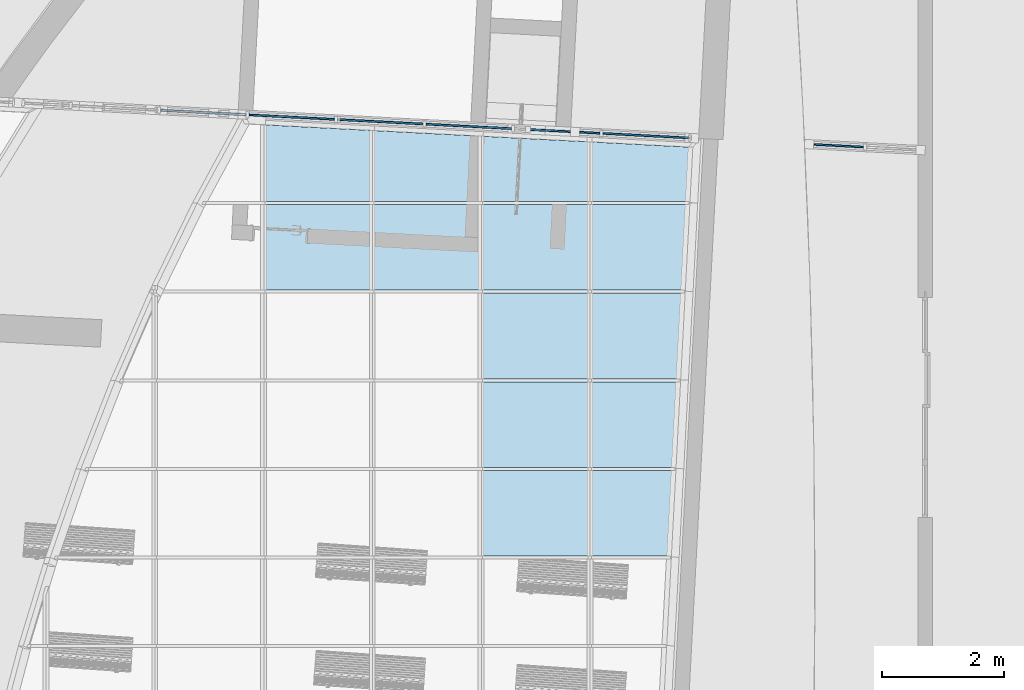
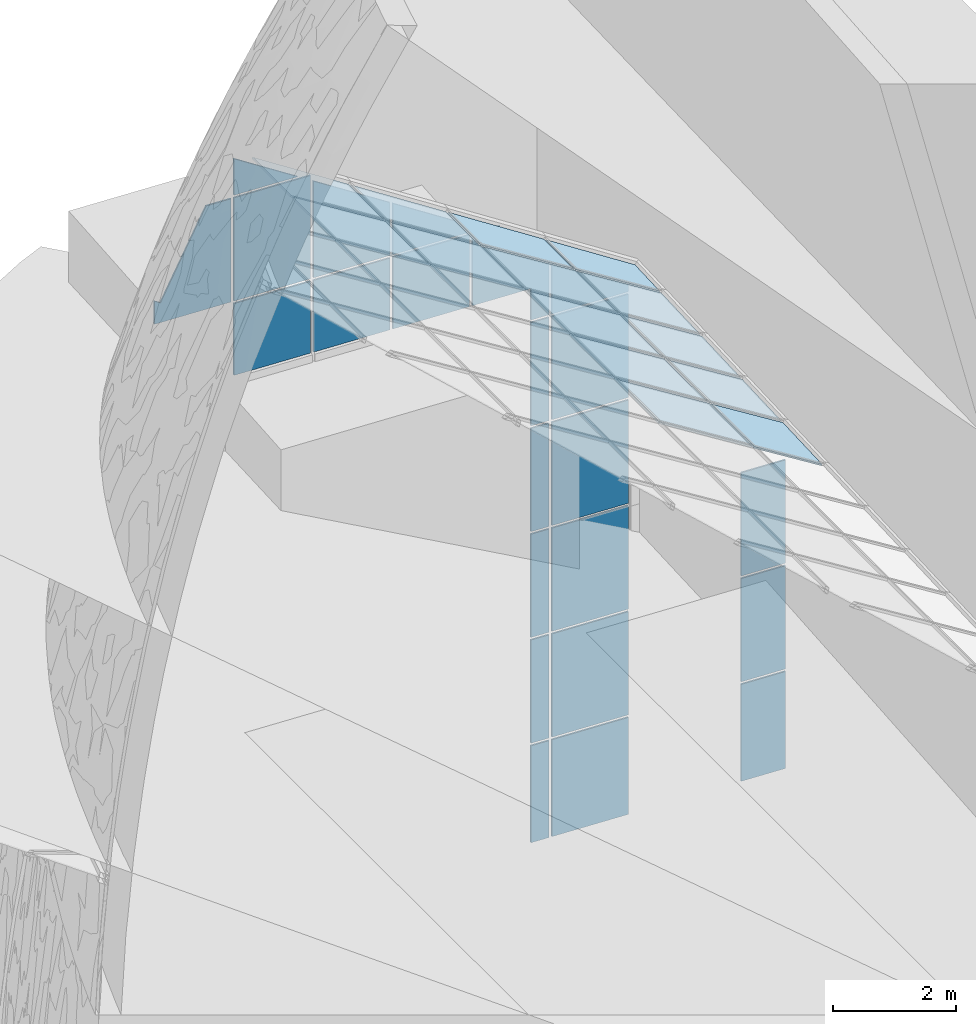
# One storey, part 44 of 82: 37 plates, 2 elements without a shape of their own.
"""IFC2X3 building model written with IfcOpenShell, lengths in millimetres."""

from ifc_helpers import new_model, entity, si_unit, converted_unit, derived_unit, direction, frame, frame_2d, origin, origin_2d_with_axis, place, context, subcontext, project, spatial, polyline, rectangle, outline, extrude, source, transform, mapped, material, layer, layer_set, layer_usage, type_object, type_shapes, element, aggregate, save


model = new_model("IFC2X3")

# Units and contexts
model_context = context("Model", 3, precision=0.01, world=origin(), true_north=direction((6.12303176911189e-17, 1.0)))
body_context = subcontext(model_context, "Body", "Model", "MODEL_VIEW")
ifc_project = project(units=[si_unit("LENGTHUNIT", "METRE", prefix="MILLI"), si_unit("AREAUNIT", "SQUARE_METRE"), si_unit("VOLUMEUNIT", "CUBIC_METRE"), converted_unit("PLANEANGLEUNIT", "DEGREE", entity("IfcRatioMeasure", 0.0174532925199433), si_unit("PLANEANGLEUNIT", "RADIAN"), dimensions=[0, 0, 0, 0, 0, 0, 0]), si_unit("MASSUNIT", "GRAM", prefix="KILO"), derived_unit("MASSDENSITYUNIT", [(si_unit("MASSUNIT", "GRAM", prefix="KILO"), 1), (si_unit("LENGTHUNIT", "METRE"), -3)]), si_unit("TIMEUNIT", "SECOND"), si_unit("FREQUENCYUNIT", "HERTZ"), si_unit("THERMODYNAMICTEMPERATUREUNIT", "DEGREE_CELSIUS"), derived_unit("THERMALTRANSMITTANCEUNIT", [(si_unit("MASSUNIT", "GRAM", prefix="KILO"), 1), (si_unit("THERMODYNAMICTEMPERATUREUNIT", "KELVIN"), -1), (si_unit("TIMEUNIT", "SECOND"), -3)]), derived_unit("VOLUMETRICFLOWRATEUNIT", [(si_unit("LENGTHUNIT", "METRE"), 3), (si_unit("TIMEUNIT", "SECOND"), -1)]), si_unit("ELECTRICCURRENTUNIT", "AMPERE"), si_unit("ELECTRICVOLTAGEUNIT", "VOLT"), si_unit("POWERUNIT", "WATT"), si_unit("FORCEUNIT", "NEWTON", prefix="KILO"), si_unit("ILLUMINANCEUNIT", "LUX"), si_unit("LUMINOUSFLUXUNIT", "LUMEN"), si_unit("LUMINOUSINTENSITYUNIT", "CANDELA"), derived_unit("USERDEFINED", [(si_unit("MASSUNIT", "GRAM", prefix="KILO"), -1), (si_unit("LENGTHUNIT", "METRE"), -2), (si_unit("TIMEUNIT", "SECOND"), 3), (si_unit("LUMINOUSFLUXUNIT", "LUMEN"), 1)]), derived_unit("LINEARVELOCITYUNIT", [(si_unit("LENGTHUNIT", "METRE"), 1), (si_unit("TIMEUNIT", "SECOND"), -1)]), si_unit("PRESSUREUNIT", "PASCAL"), derived_unit("USERDEFINED", [(si_unit("LENGTHUNIT", "METRE"), -2), (si_unit("MASSUNIT", "GRAM", prefix="KILO"), 1), (si_unit("TIMEUNIT", "SECOND"), -2)])], contexts=[model_context])

# Site, building, storey
site_placement = place(None, origin())
site = spatial("IfcSite", under=ifc_project, at=site_placement, Name="表面", CompositionType="ELEMENT")
building_placement = place(site_placement, origin())
building = spatial("IfcBuilding", under=site, at=building_placement, CompositionType="ELEMENT")
storey_placement = place(building_placement, origin())
storey = spatial("IfcBuildingStorey", under=building, at=storey_placement, Name="1F", CompositionType="ELEMENT", Elevation=0.0)

# Curtain wall, plates
curtain_wall_type = type_object("IfcCurtainWallType", Name="幕墙系统:1450 x 2100mm", PredefinedType="NOTDEFINED")
curtain_wall_1_placement = place(storey_placement, origin())
curtain_wall_1 = element("IfcCurtainWall", 1, at=curtain_wall_1_placement, inside=storey, type_object=curtain_wall_type, Name="幕墙系统:1450 x 2100mm", ObjectType="幕墙系统:1450 x 2100mm")
ifc_material = material(Name="<Unnamed>")
ifc_layer = layer(ifc_material, 30.0)
ifc_layer_set = layer_set([ifc_layer], Name="幕墙系统:1450 x 2100mm")
ifc_layer_usage_1 = layer_usage(ifc_layer_set, "AXIS3", "POSITIVE", 0.0)
plate_type_1 = type_object("IfcPlateType", Name="玻璃", PredefinedType="CURTAIN_PANEL", material=ifc_layer_set)
shared_shape_1 = source(origin(), body_context, "Body", "SweptSolid", [
    extrude(rectangle(XDim=30.0, YDim=1400.0, at=frame_2d((0.0, 3.97903932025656e-13), x_axis=(1.0, 0.0))), frame((0.0, 0.0, 0.0), z_axis=(0.0, 0.0, 1.0), x_axis=(0.0, 1.0, 0.0)), (0.0, 0.0, 1.0), 2050.0),
])
type_shapes(plate_type_1, [shared_shape_1])
plate_1_placement = place(curtain_wall_1_placement, frame((-19940.3008154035, 386.096846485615, 12156.2797786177), z_axis=(-0.848048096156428, 0.0, 0.529919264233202), x_axis=(0.0, -1.0, 0.0)))
plate_1 = element("IfcPlate", 2, at=plate_1_placement, type_object=plate_type_1, material=ifc_layer_usage_1, Name="系统嵌板:玻璃", ObjectType="玻璃", context=body_context, shape_type="MappedRepresentation", body=[
    mapped(shared_shape_1, transform((0.0, 0.0, 0.0), scale=1.0)),
])
ifc_layer_usage_2 = layer_usage(ifc_layer_set, "AXIS3", "POSITIVE", 0.0)
plate_2_placement = place(curtain_wall_1_placement, frame((-19940.3008154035, -1063.90315351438, 12156.2797786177), z_axis=(-0.848048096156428, 0.0, 0.529919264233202), x_axis=(0.0, -1.0, 0.0)))
plate_2 = element("IfcPlate", 3, at=plate_2_placement, type_object=plate_type_1, material=ifc_layer_usage_2, Name="系统嵌板:玻璃", ObjectType="玻璃", context=body_context, shape_type="MappedRepresentation", body=[
    mapped(shared_shape_1, transform((0.0, 0.0, 0.0), scale=1.0)),
])
ifc_layer_usage_3 = layer_usage(ifc_layer_set, "AXIS3", "POSITIVE", 0.0)
plate_3_placement = place(curtain_wall_1_placement, frame((-19940.3008154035, -2513.90315351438, 12156.2797786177), z_axis=(-0.848048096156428, 0.0, 0.529919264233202), x_axis=(0.0, -1.0, 0.0)))
plate_3 = element("IfcPlate", 4, at=plate_3_placement, type_object=plate_type_1, material=ifc_layer_usage_3, Name="系统嵌板:玻璃", ObjectType="玻璃", context=body_context, shape_type="MappedRepresentation", body=[
    mapped(shared_shape_1, transform((0.0, 0.0, 0.0), scale=1.0)),
])
ifc_layer_usage_4 = layer_usage(ifc_layer_set, "AXIS3", "POSITIVE", 0.0)
plate_4_placement = place(curtain_wall_1_placement, frame((-19940.3008154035, -3963.90315351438, 12156.2797786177), z_axis=(-0.848048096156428, 0.0, 0.529919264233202), x_axis=(0.0, -1.0, 0.0)))
plate_4 = element("IfcPlate", 5, at=plate_4_placement, type_object=plate_type_1, material=ifc_layer_usage_4, Name="系统嵌板:玻璃", ObjectType="玻璃", context=body_context, shape_type="MappedRepresentation", body=[
    mapped(shared_shape_1, transform((0.0, 0.0, 0.0), scale=1.0)),
])
ifc_layer_usage_5 = layer_usage(ifc_layer_set, "AXIS3", "POSITIVE", 0.0)
plate_5_placement = place(curtain_wall_1_placement, frame((-21721.201817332, 386.096846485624, 13269.1102335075), z_axis=(-0.848048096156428, 0.0, 0.529919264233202), x_axis=(0.0, -1.0, 0.0)))
plate_5 = element("IfcPlate", 6, at=plate_5_placement, type_object=plate_type_1, material=ifc_layer_usage_5, Name="系统嵌板:玻璃", ObjectType="玻璃", context=body_context, shape_type="MappedRepresentation", body=[
    mapped(shared_shape_1, transform((0.0, 0.0, 0.0), scale=1.0)),
])
ifc_layer_usage_6 = layer_usage(ifc_layer_set, "AXIS3", "POSITIVE", 0.0)
plate_6_placement = place(curtain_wall_1_placement, frame((-23502.1028192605, 386.096846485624, 14381.9406883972), z_axis=(-0.848048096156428, 0.0, 0.529919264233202), x_axis=(0.0, -1.0, 0.0)))
plate_6 = element("IfcPlate", 7, at=plate_6_placement, type_object=plate_type_1, material=ifc_layer_usage_6, Name="系统嵌板:玻璃", ObjectType="玻璃", context=body_context, shape_type="MappedRepresentation", body=[
    mapped(shared_shape_1, transform((0.0, 0.0, 0.0), scale=1.0)),
])
ifc_layer_usage_7 = layer_usage(ifc_layer_set, "AXIS3", "POSITIVE", 0.0)
plate_7_placement = place(curtain_wall_1_placement, frame((-19006.204384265, 2215.48991123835, 2125.0), z_axis=(0.0, 0.0, 1.0), x_axis=(0.998629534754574, -0.0523359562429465, 0.0)))
plate_7 = element("IfcPlate", 8, at=plate_7_placement, type_object=plate_type_1, material=ifc_layer_usage_7, Name="系统嵌板:玻璃", ObjectType="玻璃", context=body_context, shape_type="MappedRepresentation", body=[
    mapped(shared_shape_1, transform((0.0, 0.0, 0.0), scale=1.0)),
])
ifc_layer_usage_8 = layer_usage(ifc_layer_set, "AXIS3", "POSITIVE", 0.0)
plate_8_placement = place(curtain_wall_1_placement, frame((-19006.204384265, 2215.48991123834, 4225.0), z_axis=(0.0, 0.0, 1.0), x_axis=(0.998629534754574, -0.0523359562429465, 0.0)))
plate_8 = element("IfcPlate", 9, at=plate_8_placement, type_object=plate_type_1, material=ifc_layer_usage_8, Name="系统嵌板:玻璃", ObjectType="玻璃", context=body_context, shape_type="MappedRepresentation", body=[
    mapped(shared_shape_1, transform((0.0, 0.0, 0.0), scale=1.0)),
])
ifc_layer_usage_9 = layer_usage(ifc_layer_set, "AXIS3", "POSITIVE", 0.0)
plate_9_placement = place(curtain_wall_1_placement, frame((-19006.204384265, 2215.48991123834, 6325.0), z_axis=(0.0, 0.0, 1.0), x_axis=(0.998629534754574, -0.0523359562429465, 0.0)))
plate_9 = element("IfcPlate", 10, at=plate_9_placement, type_object=plate_type_1, material=ifc_layer_usage_9, Name="系统嵌板:玻璃", ObjectType="玻璃", context=body_context, shape_type="MappedRepresentation", body=[
    mapped(shared_shape_1, transform((0.0, 0.0, 0.0), scale=1.0)),
])
ifc_layer_usage_10 = layer_usage(ifc_layer_set, "AXIS3", "POSITIVE", 0.0)
plate_10_placement = place(curtain_wall_1_placement, frame((-19006.204384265, 2215.48991123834, 8425.0), z_axis=(0.0, 0.0, 1.0), x_axis=(0.998629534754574, -0.0523359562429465, 0.0)))
plate_10 = element("IfcPlate", 11, at=plate_10_placement, type_object=plate_type_1, material=ifc_layer_usage_10, Name="系统嵌板:玻璃", ObjectType="玻璃", context=body_context, shape_type="MappedRepresentation", body=[
    mapped(shared_shape_1, transform((0.0, 0.0, 0.0), scale=1.0)),
])
ifc_layer_usage_11 = layer_usage(ifc_layer_set, "AXIS3", "POSITIVE", 0.0)
plate_11_placement = place(curtain_wall_1_placement, frame((-24798.2556858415, 2519.03845744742, 12625.0), z_axis=(0.0, 0.0, 1.0), x_axis=(0.998629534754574, -0.0523359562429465, 0.0)))
plate_11 = element("IfcPlate", 12, at=plate_11_placement, type_object=plate_type_1, material=ifc_layer_usage_11, Name="系统嵌板:玻璃", ObjectType="玻璃", context=body_context, shape_type="MappedRepresentation", body=[
    mapped(shared_shape_1, transform((0.0, 0.0, 0.0), scale=1.0)),
])
ifc_layer_usage_12 = layer_usage(ifc_layer_set, "AXIS3", "POSITIVE", 0.0)
plate_type_2 = type_object("IfcPlateType", Name="玻璃", PredefinedType="CURTAIN_PANEL", material=ifc_layer_set)
shared_shape_2 = source(origin(), body_context, "Body", "SweptSolid", [
    extrude(rectangle(XDim=30.0, YDim=1400.0, at=frame_2d((0.0, 3.97903932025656e-13), x_axis=(1.0, 0.0))), frame((0.0, 0.0, 0.0), z_axis=(0.0, 0.0, 1.0), x_axis=(0.0, 1.0, 0.0)), (0.0, 0.0, 1.0), 1925.0),
])
type_shapes(plate_type_2, [shared_shape_2])
plate_12_placement = place(curtain_wall_1_placement, frame((-19006.204384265, 2215.48991123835, 150.0), z_axis=(0.0, 0.0, 1.0), x_axis=(0.998629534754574, -0.0523359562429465, 0.0)))
plate_12 = element("IfcPlate", 13, at=plate_12_placement, type_object=plate_type_2, material=ifc_layer_usage_12, Name="系统嵌板:玻璃", ObjectType="玻璃", context=body_context, shape_type="MappedRepresentation", body=[
    mapped(shared_shape_2, transform((0.0, 0.0, 0.0), scale=1.0)),
])

curtain_wall_2_placement = place(storey_placement, origin())
curtain_wall_2 = element("IfcCurtainWall", 14, at=curtain_wall_2_placement, inside=storey, type_object=curtain_wall_type, Name="幕墙系统:1450 x 2100mm", ObjectType="幕墙系统:1450 x 2100mm")
ifc_layer_usage_13 = layer_usage(ifc_layer_set, "AXIS3", "POSITIVE", 0.0)
plate_type_3 = type_object("IfcPlateType", Name="玻璃", PredefinedType="CURTAIN_PANEL", material=ifc_layer_set)
shared_shape_3 = source(origin(), body_context, "Body", "SweptSolid", [
    extrude(rectangle(XDim=30.0, YDim=813.114110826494, at=frame_2d((0.0, -2.8421709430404e-13), x_axis=(1.0, 0.0))), frame((0.0, 0.0, 0.0), z_axis=(0.0, 0.0, 1.0), x_axis=(0.0, 1.0, 0.0)), (0.0, 0.0, 1.0), 1925.0),
])
type_shapes(plate_type_3, [shared_shape_3])
plate_13_placement = place(curtain_wall_2_placement, frame((-15847.9754688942, 2049.97414731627, 150.0), z_axis=(0.0, 0.0, 1.0), x_axis=(0.998629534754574, -0.0523359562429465, 0.0)))
plate_13 = element("IfcPlate", 15, at=plate_13_placement, type_object=plate_type_3, material=ifc_layer_usage_13, Name="系统嵌板:玻璃", ObjectType="玻璃", context=body_context, shape_type="MappedRepresentation", body=[
    mapped(shared_shape_3, transform((0.0, 0.0, 0.0), scale=1.0)),
])
ifc_layer_usage_14 = layer_usage(ifc_layer_set, "AXIS3", "POSITIVE", 0.0)
plate_type_4 = type_object("IfcPlateType", Name="玻璃", PredefinedType="CURTAIN_PANEL", material=ifc_layer_set)
shared_shape_4 = source(origin(), body_context, "Body", "SweptSolid", [
    extrude(rectangle(XDim=30.0, YDim=813.114110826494, at=frame_2d((0.0, -2.8421709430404e-13), x_axis=(1.0, 0.0))), frame((0.0, 0.0, 0.0), z_axis=(0.0, 0.0, 1.0), x_axis=(0.0, 1.0, 0.0)), (0.0, 0.0, 1.0), 2050.0),
])
type_shapes(plate_type_4, [shared_shape_4])
plate_14_placement = place(curtain_wall_2_placement, frame((-15847.9754688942, 2049.97414731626, 2125.0), z_axis=(0.0, 0.0, 1.0), x_axis=(0.998629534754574, -0.0523359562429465, 0.0)))
plate_14 = element("IfcPlate", 16, at=plate_14_placement, type_object=plate_type_4, material=ifc_layer_usage_14, Name="系统嵌板:玻璃", ObjectType="玻璃", context=body_context, shape_type="MappedRepresentation", body=[
    mapped(shared_shape_4, transform((0.0, 0.0, 0.0), scale=1.0)),
])
ifc_layer_usage_15 = layer_usage(ifc_layer_set, "AXIS3", "POSITIVE", 0.0)
plate_15_placement = place(curtain_wall_2_placement, frame((-15847.9754688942, 2049.97414731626, 4225.0), z_axis=(0.0, 0.0, 1.0), x_axis=(0.998629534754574, -0.0523359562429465, 0.0)))
plate_15 = element("IfcPlate", 17, at=plate_15_placement, type_object=plate_type_4, material=ifc_layer_usage_15, Name="系统嵌板:玻璃", ObjectType="玻璃", context=body_context, shape_type="MappedRepresentation", body=[
    mapped(shared_shape_4, transform((0.0, 0.0, 0.0), scale=1.0)),
])
aggregate(curtain_wall_2, [plate_13, plate_14, plate_15])

# Plate
ifc_layer_usage_16 = layer_usage(ifc_layer_set, "AXIS3", "POSITIVE", 0.0)
plate_type_5 = type_object("IfcPlateType", Name="玻璃", PredefinedType="CURTAIN_PANEL", material=ifc_layer_set)
shared_shape_5 = source(origin(), body_context, "Body", "SweptSolid", [
    extrude(outline(polyline([(-951.909193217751, -466.85176375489), (965.854117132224, -466.85176375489), (922.520276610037, 508.16243409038), (-936.46520052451, 425.541093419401), (-951.909193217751, -466.85176375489)])), frame((21.2874062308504, -15.0, 971.698877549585), z_axis=(0.0, 1.0, 0.0), x_axis=(-0.0444004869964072, 0.0, 0.999013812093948)), (0.0, 0.0, 1.0), 30.0),
])
type_shapes(plate_type_5, [shared_shape_5])
plate_16_placement = place(curtain_wall_1_placement, frame((-18273.1467785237, 1624.08519361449, 11114.5263160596), z_axis=(-0.848048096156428, 0.0, 0.529919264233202), x_axis=(0.0, -1.0, 0.0)))
plate_16 = element("IfcPlate", 18, at=plate_16_placement, type_object=plate_type_5, material=ifc_layer_usage_16, Name="系统嵌板:玻璃", ObjectType="玻璃", context=body_context, shape_type="MappedRepresentation", body=[
    mapped(shared_shape_5, transform((0.0, 0.0, 0.0), scale=1.0)),
])

ifc_layer_usage_17 = layer_usage(ifc_layer_set, "AXIS3", "POSITIVE", 0.0)
plate_type_6 = type_object("IfcPlateType", Name="玻璃", PredefinedType="CURTAIN_PANEL", material=ifc_layer_set)
shared_shape_6 = source(origin(), body_context, "Body", "SweptSolid", [
    extrude(outline(polyline([(-950.494687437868, -700.0), (907.236002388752, -700.0), (907.236002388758, 700.0), (-863.977317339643, 700.0), (-950.494687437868, -700.0)])), frame((0.0, -15.0, 950.49468743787), z_axis=(0.0, 1.0, 0.0), x_axis=(0.0, 0.0, 1.0)), (0.0, 0.0, 1.0), 30.0),
])
type_shapes(plate_type_6, [shared_shape_6])
plate_17_placement = place(curtain_wall_1_placement, frame((-18322.4534359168, 386.096846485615, 11145.3365351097), z_axis=(-0.848048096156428, 0.0, 0.529919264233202), x_axis=(0.0, -1.0, 0.0)))
plate_17 = element("IfcPlate", 19, at=plate_17_placement, type_object=plate_type_6, material=ifc_layer_usage_17, Name="系统嵌板:玻璃", ObjectType="玻璃", context=body_context, shape_type="MappedRepresentation", body=[
    mapped(shared_shape_6, transform((0.0, 0.0, 0.0), scale=1.0)),
])

ifc_layer_usage_18 = layer_usage(ifc_layer_set, "AXIS3", "POSITIVE", 0.0)
plate_type_7 = type_object("IfcPlateType", Name="玻璃", PredefinedType="CURTAIN_PANEL", material=ifc_layer_set)
shared_shape_7 = source(origin(), body_context, "Body", "SweptSolid", [
    extrude(outline(polyline([(-905.69104935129, -700.0), (862.432364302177, -700.0), (862.432364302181, 700.0), (-819.173679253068, 700.0), (-905.69104935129, -700.0)])), frame((0.0, -15.0, 905.691049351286), z_axis=(0.0, 1.0, 0.0), x_axis=(0.0, 0.0, 1.0)), (0.0, 0.0, 1.0), 30.0),
])
type_shapes(plate_type_7, [shared_shape_7])
plate_18_placement = place(curtain_wall_1_placement, frame((-18398.4447158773, -1063.90315351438, 11192.8211569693), z_axis=(-0.848048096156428, 0.0, 0.529919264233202), x_axis=(0.0, -1.0, 0.0)))
plate_18 = element("IfcPlate", 20, at=plate_18_placement, type_object=plate_type_7, material=ifc_layer_usage_18, Name="系统嵌板:玻璃", ObjectType="玻璃", context=body_context, shape_type="MappedRepresentation", body=[
    mapped(shared_shape_7, transform((0.0, 0.0, 0.0), scale=1.0)),
])

ifc_layer_usage_19 = layer_usage(ifc_layer_set, "AXIS3", "POSITIVE", 0.0)
plate_type_8 = type_object("IfcPlateType", Name="玻璃", PredefinedType="CURTAIN_PANEL", material=ifc_layer_set)
shared_shape_8 = source(origin(), body_context, "Body", "SweptSolid", [
    extrude(outline(polyline([(-860.887411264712, -700.0), (817.628726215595, -700.0), (817.628726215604, 700.0), (-774.370041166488, 700.0), (-860.887411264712, -700.0)])), frame((0.0, -15.0, 860.887411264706), z_axis=(0.0, 1.0, 0.0), x_axis=(0.0, 0.0, 1.0)), (0.0, 0.0, 1.0), 30.0),
])
type_shapes(plate_type_8, [shared_shape_8])
plate_19_placement = place(curtain_wall_1_placement, frame((-18474.4359958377, -2513.90315351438, 11240.305778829), z_axis=(-0.848048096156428, 0.0, 0.529919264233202), x_axis=(0.0, -1.0, 0.0)))
plate_19 = element("IfcPlate", 21, at=plate_19_placement, type_object=plate_type_8, material=ifc_layer_usage_19, Name="系统嵌板:玻璃", ObjectType="玻璃", context=body_context, shape_type="MappedRepresentation", body=[
    mapped(shared_shape_8, transform((0.0, 0.0, 0.0), scale=1.0)),
])

ifc_layer_usage_20 = layer_usage(ifc_layer_set, "AXIS3", "POSITIVE", 0.0)
plate_type_9 = type_object("IfcPlateType", Name="玻璃", PredefinedType="CURTAIN_PANEL", material=ifc_layer_set)
shared_shape_9 = source(origin(), body_context, "Body", "SweptSolid", [
    extrude(outline(polyline([(-816.083773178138, -700.0), (772.825088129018, -700.0), (772.825088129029, 700.0), (-729.566403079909, 700.0), (-816.083773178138, -700.0)])), frame((0.0, -15.0, 816.083773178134), z_axis=(0.0, 1.0, 0.0), x_axis=(0.0, 0.0, 1.0)), (0.0, 0.0, 1.0), 30.0),
])
type_shapes(plate_type_9, [shared_shape_9])
plate_20_placement = place(curtain_wall_1_placement, frame((-18550.4272757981, -3963.90315351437, 11287.7904006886), z_axis=(-0.848048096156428, 0.0, 0.529919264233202), x_axis=(0.0, -1.0, 0.0)))
plate_20 = element("IfcPlate", 22, at=plate_20_placement, type_object=plate_type_9, material=ifc_layer_usage_20, Name="系统嵌板:玻璃", ObjectType="玻璃", context=body_context, shape_type="MappedRepresentation", body=[
    mapped(shared_shape_9, transform((0.0, 0.0, 0.0), scale=1.0)),
])

ifc_layer_usage_21 = layer_usage(ifc_layer_set, "AXIS3", "POSITIVE", 0.0)
plate_type_10 = type_object("IfcPlateType", Name="玻璃", PredefinedType="CURTAIN_PANEL", material=ifc_layer_set)
shared_shape_10 = source(origin(), body_context, "Body", "SweptSolid", [
    extrude(outline(polyline([(-1003.28424493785, -511.372360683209), (1048.73943599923, -511.372360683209), (1001.26156186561, 556.882859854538), (-1046.71675292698, 465.861861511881), (-1003.28424493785, -511.372360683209)])), frame((22.7777126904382, -15.0, 1025.0), z_axis=(0.0, 1.0, 0.0), x_axis=(-0.0444004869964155, 0.0, 0.999013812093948)), (0.0, 0.0, 1.0), 30.0),
])
type_shapes(plate_type_10, [shared_shape_10])
plate_21_placement = place(curtain_wall_1_placement, frame((-19940.3008154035, 1670.75172693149, 12156.2797786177), z_axis=(-0.848048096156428, 0.0, 0.529919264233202), x_axis=(0.0, -1.0, 0.0)))
plate_21 = element("IfcPlate", 23, at=plate_21_placement, type_object=plate_type_10, material=ifc_layer_usage_21, Name="系统嵌板:玻璃", ObjectType="玻璃", context=body_context, shape_type="MappedRepresentation", body=[
    mapped(shared_shape_10, transform((0.0, 0.0, 0.0), scale=1.0)),
])

ifc_layer_usage_22 = layer_usage(ifc_layer_set, "AXIS3", "POSITIVE", 0.0)
plate_type_11 = type_object("IfcPlateType", Name="玻璃", PredefinedType="CURTAIN_PANEL", material=ifc_layer_set)
shared_shape_11 = source(origin(), body_context, "Body", "SweptSolid", [
    extrude(outline(polyline([(-1001.21222813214, -557.992872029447), (1050.81145280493, -557.992872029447), (999.189545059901, 603.503371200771), (-1048.78876973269, 512.482372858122), (-1001.21222813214, -557.992872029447)])), frame((22.7777126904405, -15.0, 1025.0), z_axis=(0.0, 1.0, 0.0), x_axis=(-0.0444004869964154, 0.0, 0.999013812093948)), (0.0, 0.0, 1.0), 30.0),
])
type_shapes(plate_type_11, [shared_shape_11])
plate_22_placement = place(curtain_wall_1_placement, frame((-21721.201817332, 1717.41826024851, 13269.1102335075), z_axis=(-0.848048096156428, 0.0, 0.529919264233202), x_axis=(0.0, -1.0, 0.0)))
plate_22 = element("IfcPlate", 24, at=plate_22_placement, type_object=plate_type_11, material=ifc_layer_usage_22, Name="系统嵌板:玻璃", ObjectType="玻璃", context=body_context, shape_type="MappedRepresentation", body=[
    mapped(shared_shape_11, transform((0.0, 0.0, 0.0), scale=1.0)),
])

ifc_layer_usage_23 = layer_usage(ifc_layer_set, "AXIS3", "POSITIVE", 0.0)
plate_type_12 = type_object("IfcPlateType", Name="玻璃", PredefinedType="CURTAIN_PANEL", material=ifc_layer_set)
shared_shape_12 = source(origin(), body_context, "Body", "SweptSolid", [
    extrude(outline(polyline([(-999.140211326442, -604.61338337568), (1052.88346961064, -604.61338337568), (997.117528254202, 650.123882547), (-1050.8607865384, 559.102884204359), (-999.140211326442, -604.61338337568)])), frame((22.777712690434, -15.0, 1025.0), z_axis=(0.0, 1.0, 0.0), x_axis=(-0.0444004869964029, 0.0, 0.999013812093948)), (0.0, 0.0, 1.0), 30.0),
])
type_shapes(plate_type_12, [shared_shape_12])
plate_23_placement = place(curtain_wall_1_placement, frame((-23502.1028192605, 1764.08479356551, 14381.9406883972), z_axis=(-0.848048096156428, 0.0, 0.529919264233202), x_axis=(0.0, -1.0, 0.0)))
plate_23 = element("IfcPlate", 25, at=plate_23_placement, type_object=plate_type_12, material=ifc_layer_usage_23, Name="系统嵌板:玻璃", ObjectType="玻璃", context=body_context, shape_type="MappedRepresentation", body=[
    mapped(shared_shape_12, transform((0.0, 0.0, 0.0), scale=1.0)),
])

ifc_layer_usage_24 = layer_usage(ifc_layer_set, "AXIS3", "POSITIVE", 0.0)
plate_type_13 = type_object("IfcPlateType", Name="玻璃", PredefinedType="CURTAIN_PANEL", material=ifc_layer_set)
shared_shape_13 = source(origin(), body_context, "Body", "SweptSolid", [
    extrude(rectangle(XDim=30.0, YDim=330.803022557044, at=origin_2d_with_axis()), frame((0.0, 0.0, 0.0), z_axis=(0.0, 0.0, 1.0), x_axis=(0.0, 1.0, 0.0)), (0.0, 0.0, 1.0), 1925.0),
])
type_shapes(plate_type_13, [shared_shape_13])
plate_24_placement = place(curtain_wall_1_placement, frame((-19920.3513695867, 2263.39832467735, 150.0), z_axis=(0.0, 0.0, 1.0), x_axis=(0.998629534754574, -0.0523359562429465, 0.0)))
plate_24 = element("IfcPlate", 26, at=plate_24_placement, type_object=plate_type_13, material=ifc_layer_usage_24, Name="系统嵌板:玻璃", ObjectType="玻璃", context=body_context, shape_type="MappedRepresentation", body=[
    mapped(shared_shape_13, transform((0.0, 0.0, 0.0), scale=1.0)),
])

ifc_layer_usage_25 = layer_usage(ifc_layer_set, "AXIS3", "POSITIVE", 0.0)
plate_type_14 = type_object("IfcPlateType", Name="玻璃", PredefinedType="CURTAIN_PANEL", material=ifc_layer_set)
shared_shape_14 = source(origin(), body_context, "Body", "SweptSolid", [
    extrude(rectangle(XDim=30.0, YDim=330.803022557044, at=origin_2d_with_axis()), frame((0.0, 0.0, 0.0), z_axis=(0.0, 0.0, 1.0), x_axis=(0.0, 1.0, 0.0)), (0.0, 0.0, 1.0), 2050.0),
])
type_shapes(plate_type_14, [shared_shape_14])
plate_25_placement = place(curtain_wall_1_placement, frame((-19920.3513695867, 2263.39832467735, 2125.0), z_axis=(0.0, 0.0, 1.0), x_axis=(0.998629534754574, -0.0523359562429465, 0.0)))
plate_25 = element("IfcPlate", 27, at=plate_25_placement, type_object=plate_type_14, material=ifc_layer_usage_25, Name="系统嵌板:玻璃", ObjectType="玻璃", context=body_context, shape_type="MappedRepresentation", body=[
    mapped(shared_shape_14, transform((0.0, 0.0, 0.0), scale=1.0)),
])

ifc_layer_usage_26 = layer_usage(ifc_layer_set, "AXIS3", "POSITIVE", 0.0)
plate_26_placement = place(curtain_wall_1_placement, frame((-19920.3513695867, 2263.39832467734, 4225.0), z_axis=(0.0, 0.0, 1.0), x_axis=(0.998629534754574, -0.0523359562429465, 0.0)))
plate_26 = element("IfcPlate", 28, at=plate_26_placement, type_object=plate_type_14, material=ifc_layer_usage_26, Name="系统嵌板:玻璃", ObjectType="玻璃", context=body_context, shape_type="MappedRepresentation", body=[
    mapped(shared_shape_14, transform((0.0, 0.0, 0.0), scale=1.0)),
])

ifc_layer_usage_27 = layer_usage(ifc_layer_set, "AXIS3", "POSITIVE", 0.0)
plate_27_placement = place(curtain_wall_1_placement, frame((-19920.3513695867, 2263.39832467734, 6325.0), z_axis=(0.0, 0.0, 1.0), x_axis=(0.998629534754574, -0.0523359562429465, 0.0)))
plate_27 = element("IfcPlate", 29, at=plate_27_placement, type_object=plate_type_14, material=ifc_layer_usage_27, Name="系统嵌板:玻璃", ObjectType="玻璃", context=body_context, shape_type="MappedRepresentation", body=[
    mapped(shared_shape_14, transform((0.0, 0.0, 0.0), scale=1.0)),
])

ifc_layer_usage_28 = layer_usage(ifc_layer_set, "AXIS3", "POSITIVE", 0.0)
plate_28_placement = place(curtain_wall_1_placement, frame((-19920.3513695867, 2263.39832467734, 8425.0), z_axis=(0.0, 0.0, 1.0), x_axis=(0.998629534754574, -0.0523359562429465, 0.0)))
plate_28 = element("IfcPlate", 30, at=plate_28_placement, type_object=plate_type_14, material=ifc_layer_usage_28, Name="系统嵌板:玻璃", ObjectType="玻璃", context=body_context, shape_type="MappedRepresentation", body=[
    mapped(shared_shape_14, transform((0.0, 0.0, 0.0), scale=1.0)),
])

ifc_layer_usage_29 = layer_usage(ifc_layer_set, "AXIS3", "POSITIVE", 0.0)
plate_type_15 = type_object("IfcPlateType", Name="玻璃", PredefinedType="CURTAIN_PANEL", material=ifc_layer_set)
shared_shape_15 = source(origin(), body_context, "Body", "SweptSolid", [
    extrude(rectangle(XDim=30.0, YDim=1399.99999999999, at=frame_2d((0.0, 3.97903932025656e-13), x_axis=(1.0, 0.0))), frame((0.0, 0.0, 0.0), z_axis=(0.0, 0.0, 1.0), x_axis=(0.0, 1.0, 0.0)), (0.0, 0.0, 1.0), 1425.0),
])
type_shapes(plate_type_15, [shared_shape_15])
plate_29_placement = place(curtain_wall_1_placement, frame((-24798.2556858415, 2519.03845744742, 11150.0), z_axis=(0.0, 0.0, 1.0), x_axis=(0.998629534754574, -0.0523359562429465, 0.0)))
plate_29 = element("IfcPlate", 31, at=plate_29_placement, type_object=plate_type_15, material=ifc_layer_usage_29, Name="系统嵌板:玻璃", ObjectType="玻璃", context=body_context, shape_type="MappedRepresentation", body=[
    mapped(shared_shape_15, transform((0.0, 0.0, 0.0), scale=1.0)),
])

ifc_layer_usage_30 = layer_usage(ifc_layer_set, "AXIS3", "POSITIVE", 0.0)
plate_30_placement = place(curtain_wall_1_placement, frame((-23350.2428604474, 2443.15132089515, 11150.0), z_axis=(0.0, 0.0, 1.0), x_axis=(0.998629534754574, -0.0523359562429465, 0.0)))
plate_30 = element("IfcPlate", 32, at=plate_30_placement, type_object=plate_type_15, material=ifc_layer_usage_30, Name="系统嵌板:玻璃", ObjectType="玻璃", context=body_context, shape_type="MappedRepresentation", body=[
    mapped(shared_shape_15, transform((0.0, 0.0, 0.0), scale=1.0)),
])

ifc_layer_usage_31 = layer_usage(ifc_layer_set, "AXIS3", "POSITIVE", 0.0)
plate_31_placement = place(curtain_wall_1_placement, frame((-21902.2300350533, 2367.26418434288, 11150.0), z_axis=(0.0, 0.0, 1.0), x_axis=(0.998629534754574, -0.0523359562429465, 0.0)))
plate_31 = element("IfcPlate", 33, at=plate_31_placement, type_object=plate_type_15, material=ifc_layer_usage_31, Name="系统嵌板:玻璃", ObjectType="玻璃", context=body_context, shape_type="MappedRepresentation", body=[
    mapped(shared_shape_15, transform((0.0, 0.0, 0.0), scale=1.0)),
])

ifc_layer_usage_32 = layer_usage(ifc_layer_set, "AXIS3", "POSITIVE", 0.0)
plate_type_16 = type_object("IfcPlateType", Name="玻璃", PredefinedType="CURTAIN_PANEL", material=ifc_layer_set)
shared_shape_16 = source(origin(), body_context, "Body", "SweptSolid", [
    extrude(outline(polyline([(-1079.56705020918, -335.937328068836), (-1079.56705020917, -666.740350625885), (259.225515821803, -666.740350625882), (868.176785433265, 309.122779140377), (970.43294979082, 229.713279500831), (970.43294979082, 733.259649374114), (-454.567050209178, 733.259649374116), (-454.567050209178, -335.937328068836), (-1079.56705020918, -335.937328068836)])), frame((33.2596493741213, -15.0, 1079.56705020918), z_axis=(0.0, -1.0, 0.0), x_axis=(0.0, 0.0, 1.0)), (0.0, 0.0, -1.0), 30.0),
])
type_shapes(plate_type_16, [shared_shape_16])
plate_32_placement = place(curtain_wall_1_placement, frame((-20454.2172096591, 2291.37704779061, 10525.0), z_axis=(0.0, 0.0, 1.0), x_axis=(0.998629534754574, -0.0523359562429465, 0.0)))
plate_32 = element("IfcPlate", 34, at=plate_32_placement, type_object=plate_type_16, material=ifc_layer_usage_32, Name="系统嵌板:玻璃", ObjectType="玻璃", context=body_context, shape_type="MappedRepresentation", body=[
    mapped(shared_shape_16, transform((0.0, 0.0, 0.0), scale=1.0)),
])

ifc_layer_usage_33 = layer_usage(ifc_layer_set, "AXIS3", "POSITIVE", 0.0)
plate_type_17 = type_object("IfcPlateType", Name="玻璃", PredefinedType="CURTAIN_PANEL", material=ifc_layer_set)
shared_shape_17 = source(origin(), body_context, "Body", "SweptSolid", [
    extrude(outline(polyline([(-435.39141169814, -700.0), (872.200504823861, -700.0), (-1.41768142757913, 700.0), (-435.391411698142, 700.0), (-435.39141169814, -700.0)])), frame((0.0, -15.0, 435.391411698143), z_axis=(0.0, 1.0, 0.0), x_axis=(0.0, 0.0, 1.0)), (0.0, 0.0, 1.0), 30.0),
])
type_shapes(plate_type_17, [shared_shape_17])
plate_33_placement = place(curtain_wall_1_placement, frame((-19006.204384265, 2215.48991123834, 10525.0), z_axis=(0.0, 0.0, 1.0), x_axis=(0.998629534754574, -0.0523359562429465, 0.0)))
plate_33 = element("IfcPlate", 35, at=plate_33_placement, type_object=plate_type_17, material=ifc_layer_usage_33, Name="系统嵌板:玻璃", ObjectType="玻璃", context=body_context, shape_type="MappedRepresentation", body=[
    mapped(shared_shape_17, transform((0.0, 0.0, 0.0), scale=1.0)),
])

ifc_layer_usage_34 = layer_usage(ifc_layer_set, "AXIS3", "POSITIVE", 0.0)
plate_type_18 = type_object("IfcPlateType", Name="玻璃", PredefinedType="CURTAIN_PANEL", material=ifc_layer_set)
shared_shape_18 = source(origin(), body_context, "Body", "SweptSolid", [
    extrude(outline(polyline([(-825.053709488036, -641.846252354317), (-366.230664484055, -641.846252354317), (-433.554497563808, -532.803343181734), (1224.94629051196, 300.188352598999), (1224.94629051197, 758.153747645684), (-825.053709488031, 758.153747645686), (-825.053709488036, -641.846252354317)])), frame((-58.1537476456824, -15.0, 825.053709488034), z_axis=(0.0, 1.0, 0.0), x_axis=(0.0, 0.0, 1.0)), (0.0, 0.0, 1.0), 30.0),
])
type_shapes(plate_type_18, [shared_shape_18])
plate_34_placement = place(curtain_wall_1_placement, frame((-26246.2685112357, 2594.92559399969, 12625.0), z_axis=(0.0, 0.0, 1.0), x_axis=(0.998629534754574, -0.0523359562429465, 0.0)))
plate_34 = element("IfcPlate", 36, at=plate_34_placement, type_object=plate_type_18, material=ifc_layer_usage_34, Name="系统嵌板:玻璃", ObjectType="玻璃", context=body_context, shape_type="MappedRepresentation", body=[
    mapped(shared_shape_18, transform((0.0, 0.0, 0.0), scale=1.0)),
])

ifc_layer_usage_35 = layer_usage(ifc_layer_set, "AXIS3", "POSITIVE", 0.0)
plate_type_19 = type_object("IfcPlateType", Name="玻璃", PredefinedType="CURTAIN_PANEL", material=ifc_layer_set)
shared_shape_19 = source(origin(), body_context, "Body", "SweptSolid", [
    extrude(outline(polyline([(-742.61966533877, -700.0), (1179.42875846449, -700.0), (305.810572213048, 700.0), (-742.619665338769, 700.0), (-742.61966533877, -700.0)])), frame((0.0, -15.0, 742.61966533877), z_axis=(0.0, 1.0, 0.0), x_axis=(0.0, 0.0, 1.0)), (0.0, 0.0, 1.0), 30.0),
])
type_shapes(plate_type_19, [shared_shape_19])
plate_35_placement = place(curtain_wall_1_placement, frame((-23350.2428604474, 2443.15132089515, 12625.0), z_axis=(0.0, 0.0, 1.0), x_axis=(0.998629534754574, -0.0523359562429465, 0.0)))
plate_35 = element("IfcPlate", 37, at=plate_35_placement, type_object=plate_type_19, material=ifc_layer_usage_35, Name="系统嵌板:玻璃", ObjectType="玻璃", context=body_context, shape_type="MappedRepresentation", body=[
    mapped(shared_shape_19, transform((0.0, 0.0, 0.0), scale=1.0)),
])

ifc_layer_usage_36 = layer_usage(ifc_layer_set, "AXIS3", "POSITIVE", 0.0)
plate_type_20 = type_object("IfcPlateType", Name="玻璃", PredefinedType="CURTAIN_PANEL", material=ifc_layer_set)
shared_shape_20 = source(origin(), body_context, "Body", "SweptSolid", [
    extrude(outline(polyline([(-290.210247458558, -700.0), (727.019340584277, -700.0), (-146.598845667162, 700.0), (-290.210247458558, 700.0), (-290.210247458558, -700.0)])), frame((0.0, -15.0, 290.210247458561), z_axis=(0.0, 1.0, 0.0), x_axis=(0.0, 0.0, 1.0)), (0.0, 0.0, 1.0), 30.0),
])
type_shapes(plate_type_20, [shared_shape_20])
plate_36_placement = place(curtain_wall_1_placement, frame((-21902.2300350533, 2367.26418434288, 12625.0), z_axis=(0.0, 0.0, 1.0), x_axis=(0.998629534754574, -0.0523359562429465, 0.0)))
plate_36 = element("IfcPlate", 38, at=plate_36_placement, type_object=plate_type_20, material=ifc_layer_usage_36, Name="系统嵌板:玻璃", ObjectType="玻璃", context=body_context, shape_type="MappedRepresentation", body=[
    mapped(shared_shape_20, transform((0.0, 0.0, 0.0), scale=1.0)),
])

ifc_layer_usage_37 = layer_usage(ifc_layer_set, "AXIS3", "POSITIVE", 0.0)
plate_type_21 = type_object("IfcPlateType", Name="玻璃", PredefinedType="CURTAIN_PANEL", material=ifc_layer_set)
shared_shape_21 = source(origin(), body_context, "Body", "SweptSolid", [
    extrude(outline(polyline([(-242.289086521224, -388.275709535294), (484.578173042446, -388.275709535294), (-242.289086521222, 776.551419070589), (-242.289086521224, -388.275709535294)])), frame((-194.137854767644, -15.0, 242.289086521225), z_axis=(0.0, 1.0, 0.0), x_axis=(0.0, 0.0, 1.0)), (0.0, 0.0, 1.0), 30.0),
])
type_shapes(plate_type_21, [shared_shape_21])
plate_37_placement = place(curtain_wall_1_placement, frame((-24915.6809734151, 2525.19245600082, 14725.0), z_axis=(0.0, 0.0, 1.0), x_axis=(0.998629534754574, -0.0523359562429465, 0.0)))
plate_37 = element("IfcPlate", 39, at=plate_37_placement, type_object=plate_type_21, material=ifc_layer_usage_37, Name="系统嵌板:玻璃", ObjectType="玻璃", context=body_context, shape_type="MappedRepresentation", body=[
    mapped(shared_shape_21, transform((0.0, 0.0, 0.0), scale=1.0)),
])

aggregate(curtain_wall_1, [plate_16, plate_17, plate_18, plate_19, plate_20, plate_21, plate_1, plate_2, plate_3, plate_4, plate_22, plate_5, plate_23, plate_6, plate_24, plate_12, plate_25, plate_7, plate_26, plate_8, plate_27, plate_9, plate_28, plate_10, plate_29, plate_30, plate_31, plate_32, plate_33, plate_34, plate_11, plate_35, plate_36, plate_37])

save(model, "model.ifc")
